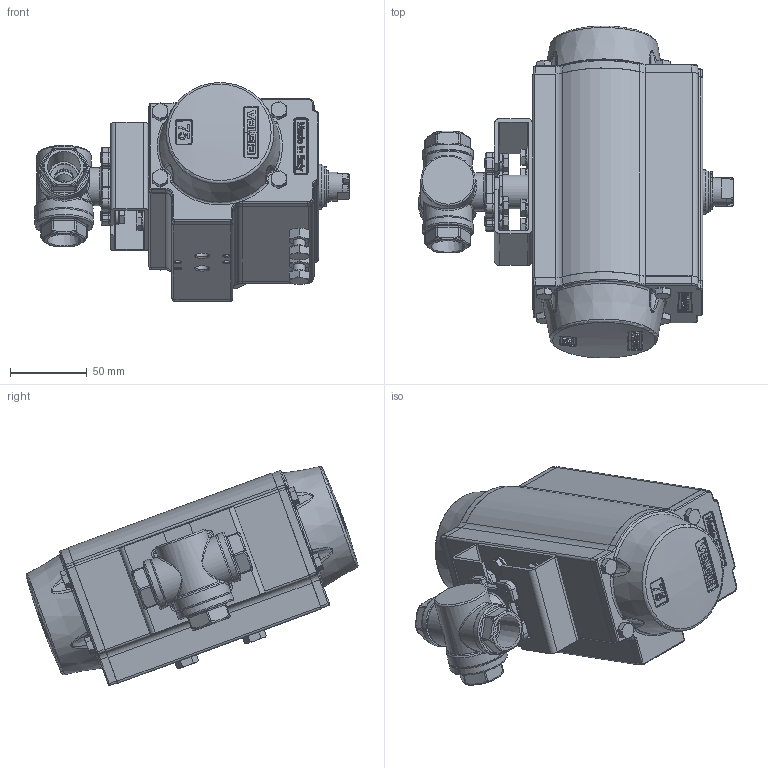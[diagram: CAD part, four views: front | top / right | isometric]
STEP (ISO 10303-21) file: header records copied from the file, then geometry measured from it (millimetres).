
FILE_DESCRIPTION((''),'2;1');
FILE_NAME('M:\3D-Files nach Lieferanten\TA-Produkte\angetriebene Armaturen\Register 8\PV3\PV3 015 L1 SR075.stp','2021-12-02T10:20:20',('RL'),(''),'Autodesk Inventor 2012','Autodesk Inventor 2012','');
FILE_SCHEMA(('AUTOMOTIVE_DESIGN { 1 0 10303 214 1 1 1 1 }'));
Length unit declared in the file: millimetre
Products named in the file (1): PV3 015 L1 SR075
Bounding box: 205.62 x 216.89 x 143 mm (x, y, z)
Volume: 1677713.4 mm3; surface area: 150240.9 mm2
Topology: 1 solids, 9 shells, 2241 faces, 5677 edges, 3490 vertices
Faces by surface type: plane 888, bspline 468, cylinder 403, cone 270, torus 130, sphere 82
Full cylindrical faces by diameter (mm): 2 x3, 4.2 x8, 5 x2, 6 x12, 6.3 x1, 6.4 x4, 6.5 x4, 6.8 x4, 8 x2, 8.5 x2, 8.88 x8, 10 x8, 12 x5, 12.5 x9, 12.8 x1, 13 x2, 16 x1, 16.5 x1, 17.2 x1, 17.462 x1, 17.856 x3, 19 x1, 19.05 x1, 21 x3, 22 x1, 22.8 x1, 23 x2, 25 x1, 25.5 x2, 25.8 x2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
Entity records: 96334 total; most frequent: CARTESIAN_POINT 44233, ORIENTED_EDGE 10710, DIRECTION 9878, EDGE_CURVE 5355, AXIS2_PLACEMENT_3D 3922, VERTEX_POINT 3374, EDGE_LOOP 2593, STYLED_ITEM 2241
